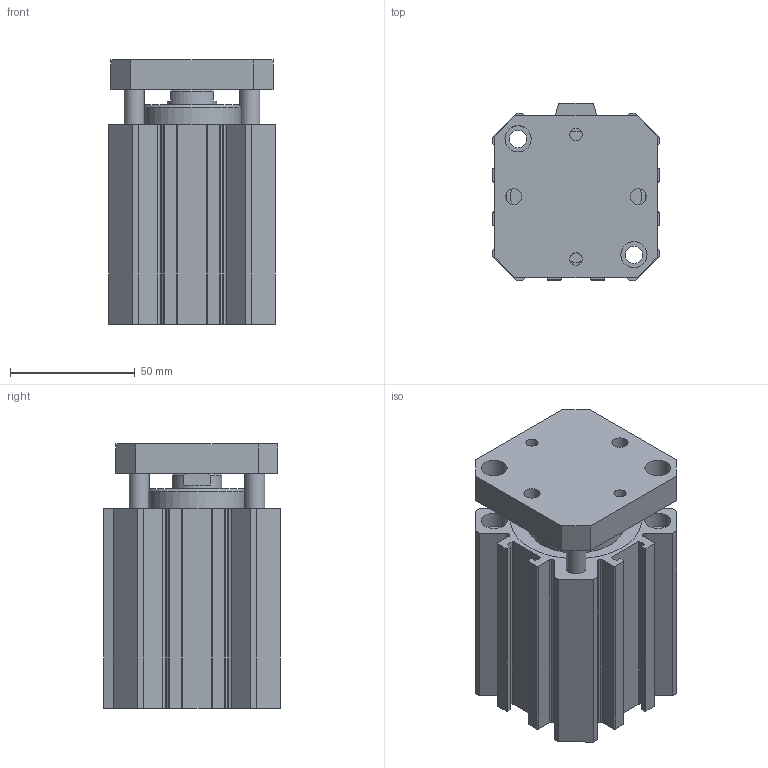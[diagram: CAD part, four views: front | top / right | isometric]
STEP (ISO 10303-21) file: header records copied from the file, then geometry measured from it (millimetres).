
FILE_DESCRIPTION(/* description */ (''),/* implementation_level */ '2;1');
FILE_NAME(/* name */ 'I:\Area Tecnica\Disegni\VARIE-3D\Componenti\1500\Ø50\15##_50_####_#\1501_50_0045_AR.stp',/* time_stamp */ '2016-08-24T12:20:09+02:00',/* author */ ('Maniean1'),/* organization */ ('Pneumax S.p.A.'),/* preprocessor_version */ 'ST-DEVELOPER v15.2',/* originating_system */ 'Autodesk Inventor 2014',/* authorisation */ '');
FILE_SCHEMA (('AUTOMOTIVE_DESIGN { 1 0 10303 214 3 1 1 }'));
Length unit declared in the file: millimetre
Products named in the file (3): C_1501_50_0045_AR; S_1501_50_0045_AR; 1501_50_0045_AR
Bounding box: 67 x 71 x 106 mm (x, y, z)
Volume: 265632.3 mm3; surface area: 88340.7 mm2
Topology: 2 solids, 2 shells, 185 faces, 481 edges, 322 vertices
Faces by surface type: plane 94, cylinder 86, cone 5
Full cylindrical faces by diameter (mm): 4.917 x2, 6.5 x2, 7 x4, 8 x4, 8.566 x2, 10.5 x10, 20 x2, 39 x2, 50 x2, 52.5 x2
Entity records: 5732 total; most frequent: DIRECTION 994, CARTESIAN_POINT 950, ORIENTED_EDGE 876, EDGE_CURVE 438, AXIS2_PLACEMENT_3D 370, VERTEX_POINT 314, EDGE_LOOP 262, LINE 254
